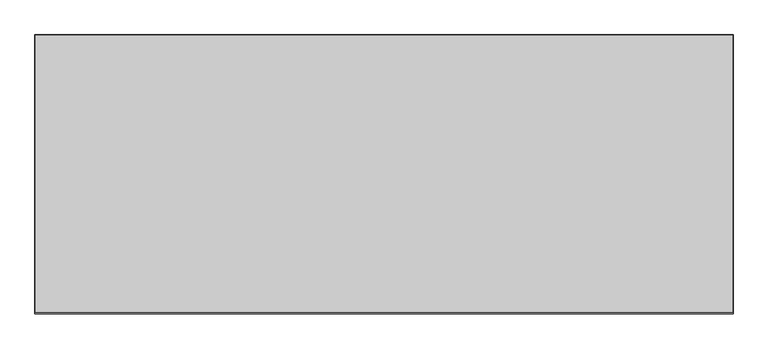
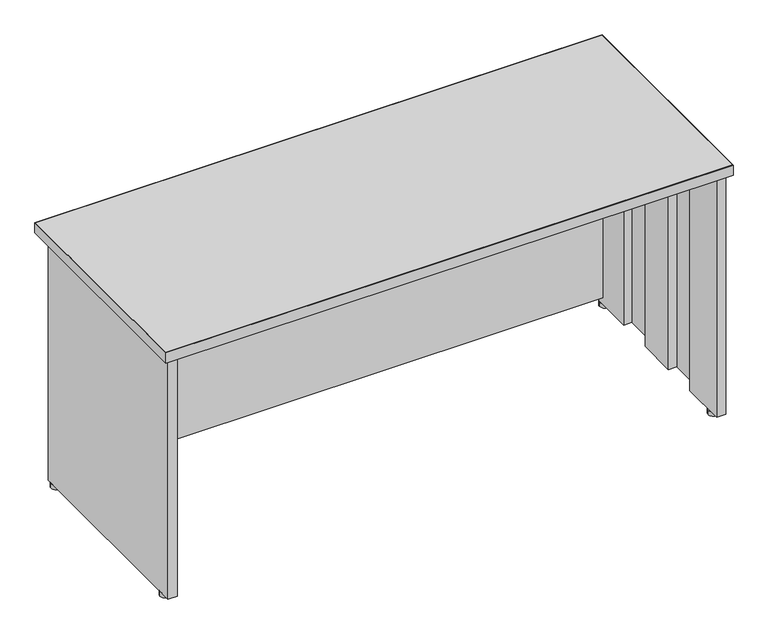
"""IFC4 building model written with IfcOpenShell, lengths in millimetres: furniture geometry, Steelcase - Kick Freestanding - Desk Shell - Full Height Modesty Panel : 24D x 60W."""

from ifc_helpers import new_model, si_unit, point, frame, frame_2d, origin, origin_with_axes, place, context, project, spatial, polyline, circle_curve, trimmed, segment, composite_curve, outline, extrude, source, transform, mapped, element, save


def furniture_68c8d96c(model_context):
    return source(origin(), model_context, "Body", "SweptSolid", [
        extrude(outline(polyline([(677.0450425, -999.9647597), (677.0450425, -974.5647604), (2126.6738425, -974.5647604), (2126.6738425, -999.9647597), (677.0450425, -999.9647597)])), frame((0.0, 0.0, 31.242), z_axis=(0.0, 0.0, 1.0), x_axis=(1.0, 0.0, 0.0)), (0.0, 0.0, 1.0), 663.702),
        extrude(outline(composite_curve([segment(trimmed(circle_curve(frame_2d((665.1357759, -986.9367877)), 13.97), [point((651.1657759, -986.9367877))], [point((679.1057759, -986.9367877))], False, "CARTESIAN"), True, "CONTINUOUS"), segment(trimmed(circle_curve(frame_2d((665.1357759, -986.9367877)), 13.97), [point((679.1057759, -986.9367877))], [point((651.1657759, -986.9367877))], False, "CARTESIAN"), True, "CONTINUOUS")], self_intersect=False)), origin_with_axes(), (0.0, 0.0, 1.0), 12.446),
        extrude(outline(composite_curve([segment(trimmed(circle_curve(frame_2d((665.1357759, -1493.6441481)), 13.97), [point((651.1657759, -1493.6441481))], [point((679.1057759, -1493.6441481))], False, "CARTESIAN"), True, "CONTINUOUS"), segment(trimmed(circle_curve(frame_2d((665.1357759, -1493.6441481)), 13.97), [point((679.1057759, -1493.6441481))], [point((651.1657759, -1493.6441481))], False, "CARTESIAN"), True, "CONTINUOUS")], self_intersect=False)), origin_with_axes(), (0.0, 0.0, 1.0), 12.446),
        extrude(outline(polyline([(2126.6738425, -1096.0529604), (2126.6738425, -972.7867604), (2151.1594421, -972.7867604), (2151.1594421, -1528.538741), (2126.6738421, -1528.538741), (2126.6738421, -1404.2311348), (2149.1020425, -1404.2311348), (2149.1020425, -1304.5107682), (2126.6738421, -1304.5107682), (2126.6738421, -1195.7733647), (2149.1020425, -1195.7733647), (2149.1020425, -1096.0529604), (2126.6738425, -1096.0529604)])), frame((0.0, 0.0, 12.446), z_axis=(0.0, 0.0, 1.0), x_axis=(1.0, 0.0, 0.0)), (0.0, 0.0, 1.0), 682.498),
        extrude(outline(polyline([(677.0450425, -1096.0529604), (654.6168425, -1096.0529604), (654.6168425, -1195.7733647), (677.0450429, -1195.7733647), (677.0450429, -1304.5107682), (654.6168425, -1304.5107682), (654.6168425, -1404.2311348), (677.0450429, -1404.2311348), (677.0450429, -1528.538741), (652.5594429, -1528.538741), (652.5594429, -972.7867604), (677.0450425, -972.7867604), (677.0450425, -1096.0529604)])), frame((0.0, 0.0, 12.446), z_axis=(0.0, 0.0, 1.0), x_axis=(1.0, 0.0, 0.0)), (0.0, 0.0, 1.0), 682.498),
        extrude(outline(polyline([(2162.8688425, -932.6293604), (2162.8688425, -1538.2669215), (640.8500425, -1538.2669215), (640.8500425, -932.6293604), (2162.8688425, -932.6293604)])), frame((0.0, 0.0, 694.944), z_axis=(0.0, 0.0, 1.0), x_axis=(1.0, 0.0, 0.0)), (0.0, 0.0, 1.0), 28.956),
        extrude(outline(polyline([(2163.8594425, -931.6387604), (2163.8594425, -1541.2387604), (639.8594425, -1541.2387604), (639.8594425, -931.6387604), (2163.8594425, -931.6387604)]), holes=[polyline([(2162.8688425, -932.6293604), (640.8500425, -932.6293604), (640.8500425, -1538.2669215), (2162.8688425, -1538.2669215), (2162.8688425, -932.6293604)])]), frame((0.0, 0.0, 694.944), z_axis=(0.0, 0.0, 1.0), x_axis=(1.0, 0.0, 0.0)), (0.0, 0.0, 1.0), 28.956),
        extrude(outline(composite_curve([segment(trimmed(circle_curve(frame_2d((2138.5831091, -1493.6441481)), 13.97), [point((2124.6131091, -1493.6441481))], [point((2152.5531091, -1493.6441481))], False, "CARTESIAN"), True, "CONTINUOUS"), segment(trimmed(circle_curve(frame_2d((2138.5831091, -1493.6441481)), 13.97), [point((2152.5531091, -1493.6441481))], [point((2124.6131091, -1493.6441481))], False, "CARTESIAN"), True, "CONTINUOUS")], self_intersect=False)), origin_with_axes(), (0.0, 0.0, 1.0), 12.446),
        extrude(outline(composite_curve([segment(trimmed(circle_curve(frame_2d((2138.5831091, -986.9367877)), 13.97), [point((2152.5531091, -986.9367877))], [point((2124.6131091, -986.9367877))], False, "CARTESIAN"), True, "CONTINUOUS"), segment(trimmed(circle_curve(frame_2d((2138.5831091, -986.9367877)), 13.97), [point((2124.6131091, -986.9367877))], [point((2152.5531091, -986.9367877))], False, "CARTESIAN"), True, "CONTINUOUS")], self_intersect=False)), origin_with_axes(), (0.0, 0.0, 1.0), 12.446),
    ])


if __name__ == "__main__":
    model = new_model("IFC4")
    model_context = context("Model", 3, world=origin())
    ifc_project = project(units=[si_unit("LENGTHUNIT", "METRE", prefix="MILLI")], contexts=[model_context])
    site = spatial("IfcSite", under=ifc_project)
    building = spatial("IfcBuilding", under=site)
    placement = place(None, origin())
    furniture_shape = furniture_68c8d96c(model_context)
    element("IfcFurniture", 1, ObjectType="Steelcase - Kick Freestanding - Desk Shell - Full Height Modesty Panel : 24D x 60W", at=placement, inside=building, context=model_context, shape_type="MappedRepresentation", body=[
        mapped(furniture_shape, transform((0.0, 0.0, 0.0), x_axis=(1.0, 0.0, 0.0), y_axis=(0.0, 1.0, 0.0), z_axis=(0.0, 0.0, 1.0))),
    ])
    save(model, "model.ifc")
